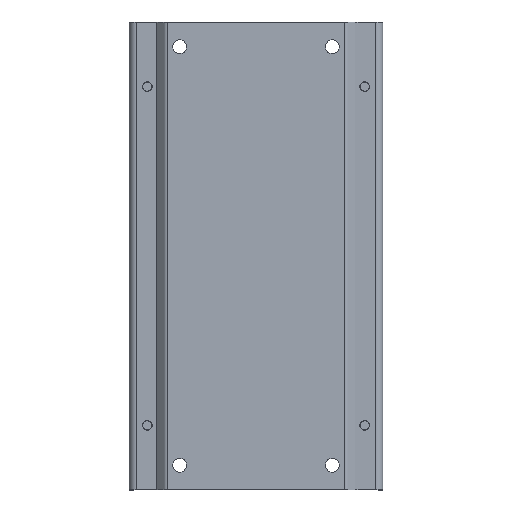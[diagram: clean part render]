
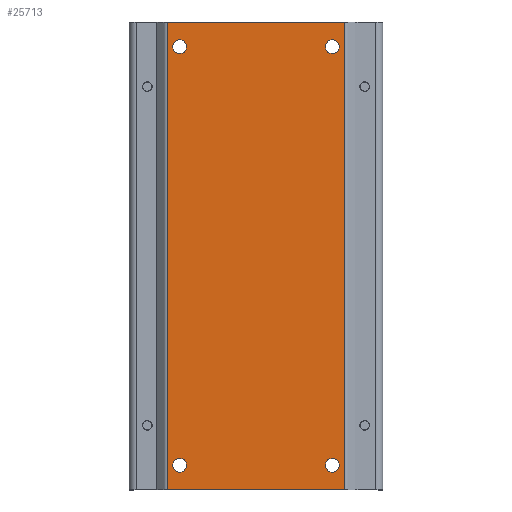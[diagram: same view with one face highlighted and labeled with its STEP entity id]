
A CAD part, front view. The second image highlights one B-rep face of the part: STEP entity #25713.
In plain terms, the highlighted planar face has unit normal (0, -1, 0).
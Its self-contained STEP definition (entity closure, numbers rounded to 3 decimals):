
#576 = CARTESIAN_POINT ( 'NONE',  ( 27.717, 0., 78.5 ) ) ;
#755 = EDGE_CURVE ( 'NONE', #25938, #17236, #16318, .T. ) ;
#892 = CIRCLE ( 'NONE', #9888, 2.5 ) ;
#1184 = EDGE_CURVE ( 'NONE', #24326, #11924, #12225, .T. ) ;
#1397 = DIRECTION ( 'NONE',  ( 0., 1., 0. ) ) ;
#1600 = EDGE_CURVE ( 'NONE', #25423, #16039, #16706, .T. ) ;
#1656 = ORIENTED_EDGE ( 'NONE', *, *, #16568, .F. ) ;
#2955 = CARTESIAN_POINT ( 'NONE',  ( -27.717, 0., -76. ) ) ;
#4151 = DIRECTION ( 'NONE',  ( 0., 1., 0. ) ) ;
#5825 = DIRECTION ( 'NONE',  ( 0., 0., 1. ) ) ;
#6227 = CIRCLE ( 'NONE', #25037, 2.5 ) ;
#6263 = CARTESIAN_POINT ( 'NONE',  ( 27.717, 0., -76. ) ) ;
#6665 = CARTESIAN_POINT ( 'NONE',  ( -27.717, 0., -78.5 ) ) ;
#6760 = ORIENTED_EDGE ( 'NONE', *, *, #13969, .T. ) ;
#7592 = AXIS2_PLACEMENT_3D ( 'NONE', #8447, #28484, #11329 ) ;
#7729 = AXIS2_PLACEMENT_3D ( 'NONE', #2955, #22986, #5825 ) ;
#8207 = CARTESIAN_POINT ( 'NONE',  ( -46., 0., -85. ) ) ;
#8447 = CARTESIAN_POINT ( 'NONE',  ( -27.717, 0., 76. ) ) ;
#9139 = AXIS2_PLACEMENT_3D ( 'NONE', #6263, #26321, #9162 ) ;
#9156 = ORIENTED_EDGE ( 'NONE', *, *, #37129, .F. ) ;
#9162 = DIRECTION ( 'NONE',  ( 0., 0., 1. ) ) ;
#9355 = CARTESIAN_POINT ( 'NONE',  ( -46., 0., 85. ) ) ;
#9812 = ORIENTED_EDGE ( 'NONE', *, *, #15004, .T. ) ;
#9888 = AXIS2_PLACEMENT_3D ( 'NONE', #18567, #1397, #21431 ) ;
#10177 = VERTEX_POINT ( 'NONE', #14400 ) ;
#10438 = ORIENTED_EDGE ( 'NONE', *, *, #10507, .F. ) ;
#10507 = EDGE_CURVE ( 'NONE', #17236, #25938, #23614, .T. ) ;
#10568 = VECTOR ( 'NONE', #19735, 1000. ) ;
#10686 = FACE_BOUND ( 'NONE', #12569, .T. ) ;
#11166 = CARTESIAN_POINT ( 'NONE',  ( -27.717, 0., 76. ) ) ;
#11329 = DIRECTION ( 'NONE',  ( 0., 0., -1. ) ) ;
#11700 = LINE ( 'NONE', #27298, #32784 ) ;
#11924 = VERTEX_POINT ( 'NONE', #13008 ) ;
#12066 = PLANE ( 'NONE',  #32029 ) ;
#12225 = LINE ( 'NONE', #34686, #35096 ) ;
#12441 = AXIS2_PLACEMENT_3D ( 'NONE', #12983, #33043, #15879 ) ;
#12494 = CARTESIAN_POINT ( 'NONE',  ( -27.717, 0., 73.5 ) ) ;
#12569 = EDGE_LOOP ( 'NONE', ( #33934, #21482 ) ) ;
#12930 = ORIENTED_EDGE ( 'NONE', *, *, #13186, .T. ) ;
#12983 = CARTESIAN_POINT ( 'NONE',  ( 27.717, 0., -76. ) ) ;
#13008 = CARTESIAN_POINT ( 'NONE',  ( -32.292, 0., 85. ) ) ;
#13186 = EDGE_CURVE ( 'NONE', #16039, #25423, #892, .T. ) ;
#13189 = EDGE_LOOP ( 'NONE', ( #1656, #17411, #9156, #25642 ) ) ;
#13262 = LINE ( 'NONE', #8207, #10568 ) ;
#13545 = CARTESIAN_POINT ( 'NONE',  ( -27.717, 0., 78.5 ) ) ;
#13862 = CARTESIAN_POINT ( 'NONE',  ( 32.259, 0., 85. ) ) ;
#13969 = EDGE_CURVE ( 'NONE', #10177, #37106, #6227, .T. ) ;
#14062 = DIRECTION ( 'NONE',  ( 0., 0., -1. ) ) ;
#14400 = CARTESIAN_POINT ( 'NONE',  ( 27.717, 0., 73.5 ) ) ;
#14427 = VERTEX_POINT ( 'NONE', #12494 ) ;
#14973 = AXIS2_PLACEMENT_3D ( 'NONE', #11166, #31217, #14062 ) ;
#15004 = EDGE_CURVE ( 'NONE', #37106, #10177, #33543, .T. ) ;
#15779 = EDGE_CURVE ( 'NONE', #14427, #26671, #17784, .T. ) ;
#15879 = DIRECTION ( 'NONE',  ( 0., 0., 1. ) ) ;
#15986 = DIRECTION ( 'NONE',  ( 0., 1., 0. ) ) ;
#16039 = VERTEX_POINT ( 'NONE', #29550 ) ;
#16318 = CIRCLE ( 'NONE', #9139, 2.5 ) ;
#16568 = EDGE_CURVE ( 'NONE', #25876, #24326, #13262, .T. ) ;
#16615 = EDGE_CURVE ( 'NONE', #26671, #14427, #17296, .T. ) ;
#16706 = CIRCLE ( 'NONE', #7729, 2.5 ) ;
#17035 = VECTOR ( 'NONE', #29408, 1000. ) ;
#17149 = EDGE_LOOP ( 'NONE', ( #10438, #19618 ) ) ;
#17236 = VERTEX_POINT ( 'NONE', #23783 ) ;
#17296 = CIRCLE ( 'NONE', #7592, 2.5 ) ;
#17405 = FACE_BOUND ( 'NONE', #30747, .T. ) ;
#17411 = ORIENTED_EDGE ( 'NONE', *, *, #36362, .T. ) ;
#17784 = CIRCLE ( 'NONE', #14973, 2.5 ) ;
#17840 = DIRECTION ( 'NONE',  ( 0., 0., -1. ) ) ;
#18456 = CARTESIAN_POINT ( 'NONE',  ( 32.259, 0., -85. ) ) ;
#18567 = CARTESIAN_POINT ( 'NONE',  ( -27.717, 0., -76. ) ) ;
#19204 = FACE_BOUND ( 'NONE', #31158, .T. ) ;
#19618 = ORIENTED_EDGE ( 'NONE', *, *, #755, .F. ) ;
#19735 = DIRECTION ( 'NONE',  ( -1., 0., 0. ) ) ;
#21305 = CARTESIAN_POINT ( 'NONE',  ( 27.717, 0., 76. ) ) ;
#21431 = DIRECTION ( 'NONE',  ( 0., 0., 1. ) ) ;
#21482 = ORIENTED_EDGE ( 'NONE', *, *, #16615, .F. ) ;
#21575 = CARTESIAN_POINT ( 'NONE',  ( 27.717, 0., -73.5 ) ) ;
#22986 = DIRECTION ( 'NONE',  ( 0., 1., 0. ) ) ;
#23614 = CIRCLE ( 'NONE', #12441, 2.5 ) ;
#23783 = CARTESIAN_POINT ( 'NONE',  ( 27.717, 0., -78.5 ) ) ;
#24179 = DIRECTION ( 'NONE',  ( 0., 0., -1. ) ) ;
#24326 = VERTEX_POINT ( 'NONE', #28087 ) ;
#24645 = LINE ( 'NONE', #9355, #17035 ) ;
#25028 = FACE_BOUND ( 'NONE', #17149, .T. ) ;
#25037 = AXIS2_PLACEMENT_3D ( 'NONE', #21305, #4151, #24179 ) ;
#25423 = VERTEX_POINT ( 'NONE', #6665 ) ;
#25642 = ORIENTED_EDGE ( 'NONE', *, *, #1184, .F. ) ;
#25713 = ADVANCED_FACE ( 'NONE', ( #19204, #10686, #32643, #25028, #17405 ), #12066, .T. ) ;
#25876 = VERTEX_POINT ( 'NONE', #18456 ) ;
#25938 = VERTEX_POINT ( 'NONE', #21575 ) ;
#26038 = DIRECTION ( 'NONE',  ( 0., 0., 1. ) ) ;
#26321 = DIRECTION ( 'NONE',  ( 0., -1., 0. ) ) ;
#26671 = VERTEX_POINT ( 'NONE', #13545 ) ;
#27178 = ORIENTED_EDGE ( 'NONE', *, *, #1600, .T. ) ;
#27298 = CARTESIAN_POINT ( 'NONE',  ( 32.259, 0., -85. ) ) ;
#28087 = CARTESIAN_POINT ( 'NONE',  ( -32.292, 0., -85. ) ) ;
#28484 = DIRECTION ( 'NONE',  ( 0., -1., 0. ) ) ;
#29408 = DIRECTION ( 'NONE',  ( 1., 0., 0. ) ) ;
#29550 = CARTESIAN_POINT ( 'NONE',  ( -27.717, 0., -73.5 ) ) ;
#30179 = DIRECTION ( 'NONE',  ( 0., 0., 1. ) ) ;
#30747 = EDGE_LOOP ( 'NONE', ( #27178, #12930 ) ) ;
#31158 = EDGE_LOOP ( 'NONE', ( #6760, #9812 ) ) ;
#31217 = DIRECTION ( 'NONE',  ( 0., -1., 0. ) ) ;
#32029 = AXIS2_PLACEMENT_3D ( 'NONE', #32118, #34994, #17840 ) ;
#32118 = CARTESIAN_POINT ( 'NONE',  ( 46., 0., -85. ) ) ;
#32643 = FACE_OUTER_BOUND ( 'NONE', #13189, .T. ) ;
#32784 = VECTOR ( 'NONE', #30179, 1000. ) ;
#32912 = VERTEX_POINT ( 'NONE', #13862 ) ;
#33043 = DIRECTION ( 'NONE',  ( 0., -1., 0. ) ) ;
#33151 = CARTESIAN_POINT ( 'NONE',  ( 27.717, 0., 76. ) ) ;
#33543 = CIRCLE ( 'NONE', #34405, 2.5 ) ;
#33934 = ORIENTED_EDGE ( 'NONE', *, *, #15779, .F. ) ;
#34405 = AXIS2_PLACEMENT_3D ( 'NONE', #33151, #15986, #36014 ) ;
#34686 = CARTESIAN_POINT ( 'NONE',  ( -32.292, 0., -85. ) ) ;
#34994 = DIRECTION ( 'NONE',  ( 0., -1., 0. ) ) ;
#35096 = VECTOR ( 'NONE', #26038, 1000. ) ;
#36014 = DIRECTION ( 'NONE',  ( 0., 0., -1. ) ) ;
#36362 = EDGE_CURVE ( 'NONE', #25876, #32912, #11700, .T. ) ;
#37106 = VERTEX_POINT ( 'NONE', #576 ) ;
#37129 = EDGE_CURVE ( 'NONE', #11924, #32912, #24645, .T. ) ;
